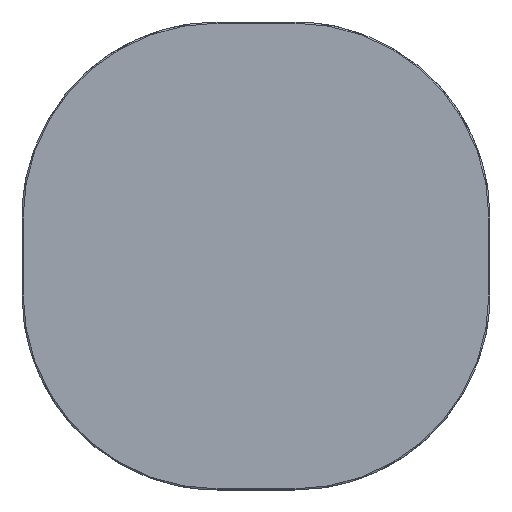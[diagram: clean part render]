
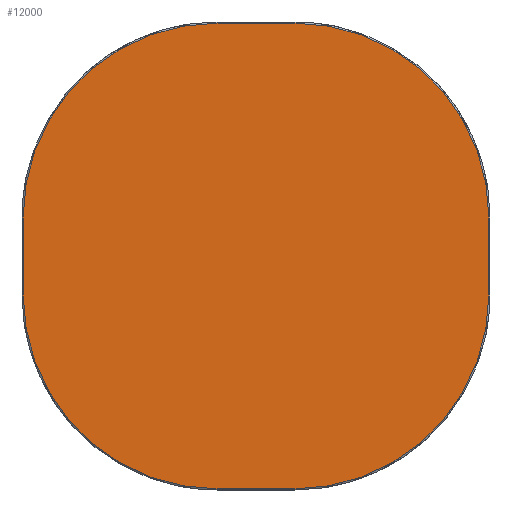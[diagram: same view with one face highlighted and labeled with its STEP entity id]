
A CAD part, top view. The second image highlights one B-rep face of the part: STEP entity #12000.
In plain terms, the highlighted planar face has unit normal (0, 0, 1).
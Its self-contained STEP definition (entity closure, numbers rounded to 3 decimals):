
#11910=CARTESIAN_POINT('',(0.,0.,20.));
#11911=DIRECTION('',(1.,0.,0.));
#11912=DIRECTION('',(0.,0.,1.));
#11913=AXIS2_PLACEMENT_3D('',#11910,#11912,#11911);
#11914=PLANE('',#11913);
#11915=CARTESIAN_POINT('',(-50.,-298.5,20.));
#11916=VERTEX_POINT('',#11915);
#11917=CARTESIAN_POINT('',(50.,-298.5,20.));
#11918=VERTEX_POINT('',#11917);
#11919=CARTESIAN_POINT('',(-50.,-298.5,20.));
#11920=DIRECTION('',(1.,0.,0.));
#11921=VECTOR('',#11920,100.);
#11922=LINE('',#11919,#11921);
#11923=EDGE_CURVE('',#11916,#11918,#11922,.T.);
#11924=ORIENTED_EDGE('E105',*,*,#11923,.T.);
#11925=CARTESIAN_POINT('',(298.5,-50.,20.));
#11926=VERTEX_POINT('',#11925);
#11927=CARTESIAN_POINT('',(50.,-50.,20.));
#11928=DIRECTION('',(0.,-1.,0.));
#11929=DIRECTION('',(0.,0.,1.));
#11930=AXIS2_PLACEMENT_3D('',#11927,#11929,#11928);
#11931=CIRCLE('',#11930,248.5);
#11932=EDGE_CURVE('',#11918,#11926,#11931,.T.);
#11933=ORIENTED_EDGE('E107',*,*,#11932,.T.);
#11934=CARTESIAN_POINT('',(298.5,50.001,20.));
#11935=VERTEX_POINT('',#11934);
#11936=CARTESIAN_POINT('',(298.5,-50.,20.));
#11937=CARTESIAN_POINT('',(298.5,-23.717,20.));
#11938=CARTESIAN_POINT('',(298.501,26.283,20.));
#11939=CARTESIAN_POINT('',(298.5,50.001,20.));
#11940=B_SPLINE_CURVE_WITH_KNOTS('',2,(#11936,#11937,#11938,#11939),.UNSPECIFIED.,.F.,.U.,(3,1,3),(0.,0.526,1.),.UNSPECIFIED.);
#11941=EDGE_CURVE('',#11926,#11935,#11940,.T.);
#11942=ORIENTED_EDGE('E109',*,*,#11941,.T.);
#11943=CARTESIAN_POINT('',(50.,298.5,20.));
#11944=VERTEX_POINT('',#11943);
#11945=CARTESIAN_POINT('',(50.,50.,20.));
#11946=DIRECTION('',(1.,0.,0.));
#11947=DIRECTION('',(0.,0.,1.));
#11948=AXIS2_PLACEMENT_3D('',#11945,#11947,#11946);
#11949=CIRCLE('',#11948,248.5);
#11950=EDGE_CURVE('',#11935,#11944,#11949,.T.);
#11951=ORIENTED_EDGE('E111',*,*,#11950,.T.);
#11952=CARTESIAN_POINT('',(-50.001,298.5,20.));
#11953=VERTEX_POINT('',#11952);
#11954=CARTESIAN_POINT('',(50.,298.5,20.));
#11955=CARTESIAN_POINT('',(44.06,298.499,20.));
#11956=CARTESIAN_POINT('',(33.903,298.5,20.));
#11957=CARTESIAN_POINT('',(23.359,298.5,20.));
#11958=CARTESIAN_POINT('',(7.191,298.5,20.));
#11959=CARTESIAN_POINT('',(-12.023,298.5,20.));
#11960=CARTESIAN_POINT('',(-27.644,298.501,20.));
#11961=CARTESIAN_POINT('',(-38.058,298.499,20.));
#11962=CARTESIAN_POINT('',(-46.112,298.498,20.));
#11963=CARTESIAN_POINT('',(-50.001,298.5,20.));
#11964=B_SPLINE_CURVE_WITH_KNOTS('',2,(#11954,#11955,#11956,#11957,#11958,#11959,#11960,#11961,#11962,#11963),.UNSPECIFIED.,.F.,.U.,(3,1,1,1,1,1,1,1,3),(0.,0.119,0.203,0.33,0.527,0.714,0.839,0.922,1.),.UNSPECIFIED.);
#11965=EDGE_CURVE('',#11944,#11953,#11964,.T.);
#11966=ORIENTED_EDGE('E113',*,*,#11965,.T.);
#11967=CARTESIAN_POINT('',(-298.5,50.,20.));
#11968=VERTEX_POINT('',#11967);
#11969=CARTESIAN_POINT('',(-50.,50.,20.));
#11970=DIRECTION('',(0.,1.,0.));
#11971=DIRECTION('',(0.,0.,1.));
#11972=AXIS2_PLACEMENT_3D('',#11969,#11971,#11970);
#11973=CIRCLE('',#11972,248.5);
#11974=EDGE_CURVE('',#11953,#11968,#11973,.T.);
#11975=ORIENTED_EDGE('E115',*,*,#11974,.T.);
#11976=CARTESIAN_POINT('',(-298.5,-50.001,20.));
#11977=VERTEX_POINT('',#11976);
#11978=CARTESIAN_POINT('',(-298.5,50.,20.));
#11979=CARTESIAN_POINT('',(-298.499,44.06,20.));
#11980=CARTESIAN_POINT('',(-298.5,33.903,20.));
#11981=CARTESIAN_POINT('',(-298.5,23.359,20.));
#11982=CARTESIAN_POINT('',(-298.5,7.191,20.));
#11983=CARTESIAN_POINT('',(-298.5,-12.023,20.));
#11984=CARTESIAN_POINT('',(-298.501,-27.644,20.));
#11985=CARTESIAN_POINT('',(-298.499,-38.058,20.));
#11986=CARTESIAN_POINT('',(-298.498,-46.112,20.));
#11987=CARTESIAN_POINT('',(-298.5,-50.001,20.));
#11988=B_SPLINE_CURVE_WITH_KNOTS('',2,(#11978,#11979,#11980,#11981,#11982,#11983,#11984,#11985,#11986,#11987),.UNSPECIFIED.,.F.,.U.,(3,1,1,1,1,1,1,1,3),(0.,0.119,0.203,0.33,0.527,0.714,0.839,0.922,1.),.UNSPECIFIED.);
#11989=EDGE_CURVE('',#11968,#11977,#11988,.T.);
#11990=ORIENTED_EDGE('E117',*,*,#11989,.T.);
#11991=CARTESIAN_POINT('',(-50.,-50.,20.));
#11992=DIRECTION('',(-1.,0.,0.));
#11993=DIRECTION('',(0.,0.,1.));
#11994=AXIS2_PLACEMENT_3D('',#11991,#11993,#11992);
#11995=CIRCLE('',#11994,248.5);
#11996=EDGE_CURVE('',#11977,#11916,#11995,.T.);
#11997=ORIENTED_EDGE('E119',*,*,#11996,.T.);
#11998=EDGE_LOOP('',(#11924,#11933,#11942,#11951,#11966,#11975,#11990,#11997));
#11999=FACE_OUTER_BOUND('',#11998,.T.);
#12000=ADVANCED_FACE('F2',(#11999),#11914,.T.);
